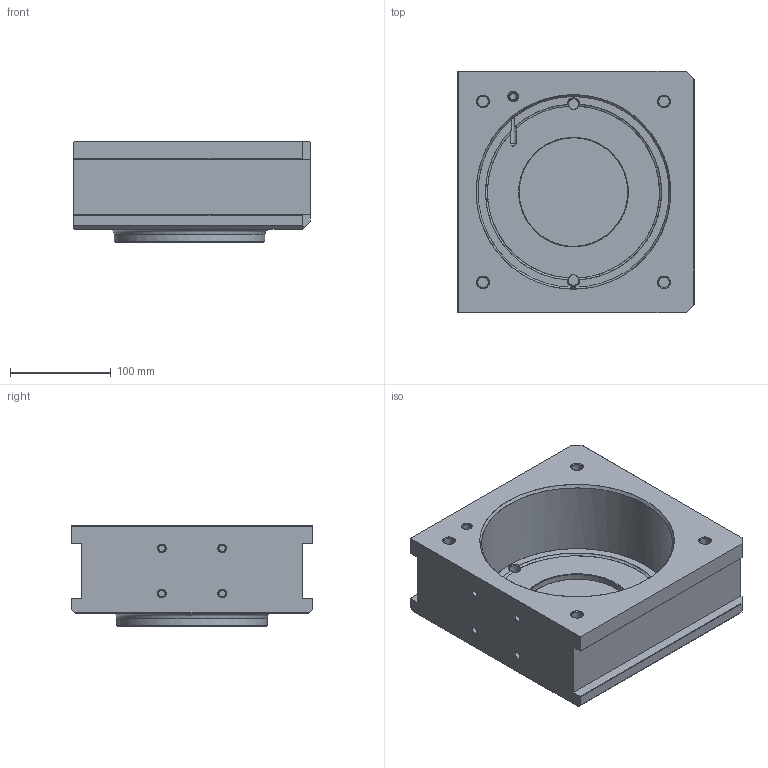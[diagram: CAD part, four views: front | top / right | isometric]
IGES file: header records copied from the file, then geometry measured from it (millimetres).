
Start section: VISI-Series Layer Mapping Iges    VISI-Series  0      LAYER0  1      LAYER1  2      WARNINGS
Global section: file name: C:\Documents and Settings\oem\Desktop\105.igs; native system: VISI-Series Rel. 12.1; preprocessor: 2.0; author: oem; organization: Unknown; date: 20141104.145814; units: millimetre
Bounding box: 235 x 240 x 100 mm (x, y, z)
Surface area: 244925.8 mm2 (no closed solid volume)
Topology: 0 solids, 0 shells, 99 faces, 1322 edges, 1283 vertices
Faces by surface type: bspline 99
